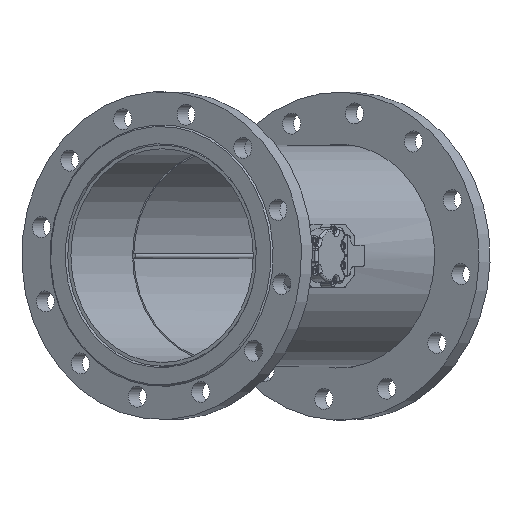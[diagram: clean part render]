
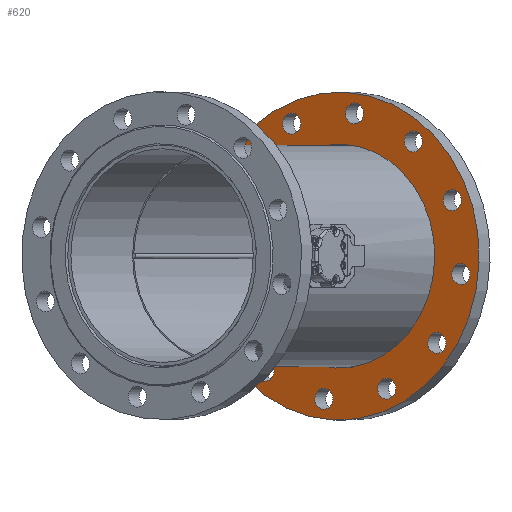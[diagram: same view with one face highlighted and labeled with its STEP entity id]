
A CAD part, top view. The second image highlights one B-rep face of the part: STEP entity #620.
In plain terms, the highlighted planar face has unit normal (-0.522, 0, 0.853) as drawn and (0, 0, -1) by its records, which use the part's own axes.
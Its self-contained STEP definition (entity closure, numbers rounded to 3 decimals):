
#620 = ADVANCED_FACE( '', ( #1344, #1345, #1346, #1347, #1348, #1349, #1350, #1351, #1352, #1353, #1354, #1355, #1356, #1357 ), #1358, .T. );
#1344 = FACE_BOUND( '', #2578, .T. );
#1345 = FACE_BOUND( '', #2579, .T. );
#1346 = FACE_BOUND( '', #2580, .T. );
#1347 = FACE_BOUND( '', #2581, .T. );
#1348 = FACE_BOUND( '', #2582, .T. );
#1349 = FACE_BOUND( '', #2583, .T. );
#1350 = FACE_BOUND( '', #2584, .T. );
#1351 = FACE_BOUND( '', #2585, .T. );
#1352 = FACE_BOUND( '', #2586, .T. );
#1353 = FACE_BOUND( '', #2587, .T. );
#1354 = FACE_BOUND( '', #2588, .T. );
#1355 = FACE_BOUND( '', #2589, .T. );
#1356 = FACE_BOUND( '', #2590, .T. );
#1357 = FACE_OUTER_BOUND( '', #2591, .T. );
#1358 = PLANE( '', #2592 );
#2578 = EDGE_LOOP( '', ( #6591 ) );
#2579 = EDGE_LOOP( '', ( #6592 ) );
#2580 = EDGE_LOOP( '', ( #6593 ) );
#2581 = EDGE_LOOP( '', ( #6594 ) );
#2582 = EDGE_LOOP( '', ( #6595 ) );
#2583 = EDGE_LOOP( '', ( #6596 ) );
#2584 = EDGE_LOOP( '', ( #6597 ) );
#2585 = EDGE_LOOP( '', ( #6598 ) );
#2586 = EDGE_LOOP( '', ( #6599 ) );
#2587 = EDGE_LOOP( '', ( #6600 ) );
#2588 = EDGE_LOOP( '', ( #6601 ) );
#2589 = EDGE_LOOP( '', ( #6602 ) );
#2590 = EDGE_LOOP( '', ( #6603 ) );
#2591 = EDGE_LOOP( '', ( #6604 ) );
#2592 = AXIS2_PLACEMENT_3D( '', #6605, #6606, #6607 );
#6591 = ORIENTED_EDGE( '', *, *, #8416, .F. );
#6592 = ORIENTED_EDGE( '', *, *, #8417, .F. );
#6593 = ORIENTED_EDGE( '', *, *, #8418, .F. );
#6594 = ORIENTED_EDGE( '', *, *, #8391, .F. );
#6595 = ORIENTED_EDGE( '', *, *, #8137, .F. );
#6596 = ORIENTED_EDGE( '', *, *, #8370, .F. );
#6597 = ORIENTED_EDGE( '', *, *, #8419, .F. );
#6598 = ORIENTED_EDGE( '', *, *, #8420, .F. );
#6599 = ORIENTED_EDGE( '', *, *, #8299, .F. );
#6600 = ORIENTED_EDGE( '', *, *, #8421, .F. );
#6601 = ORIENTED_EDGE( '', *, *, #8422, .F. );
#6602 = ORIENTED_EDGE( '', *, *, #8423, .F. );
#6603 = ORIENTED_EDGE( '', *, *, #8424, .T. );
#6604 = ORIENTED_EDGE( '', *, *, #8109, .F. );
#6605 = CARTESIAN_POINT( '', ( 138.25, 0., -8.141 ) );
#6606 = DIRECTION( '', ( 0., 0., -1. ) );
#6607 = DIRECTION( '', ( -1., 0., 0. ) );
#8109 = EDGE_CURVE( '', #8957, #8957, #8958, .T. );
#8137 = EDGE_CURVE( '', #9005, #9005, #9006, .T. );
#8299 = EDGE_CURVE( '', #9274, #9274, #9275, .T. );
#8370 = EDGE_CURVE( '', #9387, #9387, #9388, .T. );
#8391 = EDGE_CURVE( '', #9420, #9420, #9421, .T. );
#8416 = EDGE_CURVE( '', #9460, #9460, #9461, .T. );
#8417 = EDGE_CURVE( '', #9462, #9462, #9463, .T. );
#8418 = EDGE_CURVE( '', #9464, #9464, #9465, .T. );
#8419 = EDGE_CURVE( '', #9466, #9466, #9467, .T. );
#8420 = EDGE_CURVE( '', #9468, #9468, #9469, .T. );
#8421 = EDGE_CURVE( '', #9470, #9470, #9471, .T. );
#8422 = EDGE_CURVE( '', #9472, #9472, #9473, .T. );
#8423 = EDGE_CURVE( '', #9474, #9474, #9475, .T. );
#8424 = EDGE_CURVE( '', #9476, #9476, #9477, .T. );
#8957 = VERTEX_POINT( '', #10211 );
#8958 = CIRCLE( '', #10212, 202.5 );
#9005 = VERTEX_POINT( '', #10341 );
#9006 = CIRCLE( '', #10342, 13. );
#9274 = VERTEX_POINT( '', #10830 );
#9275 = CIRCLE( '', #10831, 13. );
#9387 = VERTEX_POINT( '', #10979 );
#9388 = CIRCLE( '', #10980, 13. );
#9420 = VERTEX_POINT( '', #11029 );
#9421 = CIRCLE( '', #11030, 13. );
#9460 = VERTEX_POINT( '', #11160 );
#9461 = CIRCLE( '', #11161, 13. );
#9462 = VERTEX_POINT( '', #11162 );
#9463 = CIRCLE( '', #11163, 13. );
#9464 = VERTEX_POINT( '', #11164 );
#9465 = CIRCLE( '', #11165, 13. );
#9466 = VERTEX_POINT( '', #11166 );
#9467 = CIRCLE( '', #11167, 13. );
#9468 = VERTEX_POINT( '', #11168 );
#9469 = CIRCLE( '', #11169, 13. );
#9470 = VERTEX_POINT( '', #11170 );
#9471 = CIRCLE( '', #11171, 13. );
#9472 = VERTEX_POINT( '', #11172 );
#9473 = CIRCLE( '', #11173, 13. );
#9474 = VERTEX_POINT( '', #11174 );
#9475 = CIRCLE( '', #11175, 13. );
#9476 = VERTEX_POINT( '', #11176 );
#9477 = CIRCLE( '', #11177, 138.25 );
#10211 = CARTESIAN_POINT( '', ( 202.5, 0., -8.141 ) );
#10212 = AXIS2_PLACEMENT_3D( '', #12851, #12852, #12853 );
#10341 = CARTESIAN_POINT( '', ( 32.94, -171.452, -8.141 ) );
#10342 = AXIS2_PLACEMENT_3D( '', #12891, #12892, #12893 );
#10830 = CARTESIAN_POINT( '', ( 112.511, 125.511, -8.141 ) );
#10831 = AXIS2_PLACEMENT_3D( '', #13135, #13136, #13137 );
#10979 = CARTESIAN_POINT( '', ( 112.511, -125.511, -8.141 ) );
#10980 = AXIS2_PLACEMENT_3D( '', #13236, #13237, #13238 );
#11029 = CARTESIAN_POINT( '', ( -58.94, -171.452, -8.141 ) );
#11030 = AXIS2_PLACEMENT_3D( '', #13271, #13272, #13273 );
#11160 = CARTESIAN_POINT( '', ( -184.452, 45.94, -8.141 ) );
#11161 = AXIS2_PLACEMENT_3D( '', #13307, #13308, #13309 );
#11162 = CARTESIAN_POINT( '', ( -184.452, -45.94, -8.141 ) );
#11163 = AXIS2_PLACEMENT_3D( '', #13310, #13311, #13312 );
#11164 = CARTESIAN_POINT( '', ( -138.511, -125.511, -8.141 ) );
#11165 = AXIS2_PLACEMENT_3D( '', #13313, #13314, #13315 );
#11166 = CARTESIAN_POINT( '', ( 158.452, -45.94, -8.141 ) );
#11167 = AXIS2_PLACEMENT_3D( '', #13316, #13317, #13318 );
#11168 = CARTESIAN_POINT( '', ( 158.452, 45.94, -8.141 ) );
#11169 = AXIS2_PLACEMENT_3D( '', #13319, #13320, #13321 );
#11170 = CARTESIAN_POINT( '', ( 32.94, 171.452, -8.141 ) );
#11171 = AXIS2_PLACEMENT_3D( '', #13322, #13323, #13324 );
#11172 = CARTESIAN_POINT( '', ( -58.94, 171.452, -8.141 ) );
#11173 = AXIS2_PLACEMENT_3D( '', #13325, #13326, #13327 );
#11174 = CARTESIAN_POINT( '', ( -138.511, 125.511, -8.141 ) );
#11175 = AXIS2_PLACEMENT_3D( '', #13328, #13329, #13330 );
#11176 = CARTESIAN_POINT( '', ( 138.25, 0., -8.141 ) );
#11177 = AXIS2_PLACEMENT_3D( '', #13331, #13332, #13333 );
#12851 = CARTESIAN_POINT( '', ( 0., 0., -8.141 ) );
#12852 = DIRECTION( '', ( 0., 0., 1. ) );
#12853 = DIRECTION( '', ( 1., 0., 0. ) );
#12891 = CARTESIAN_POINT( '', ( 45.94, -171.452, -8.141 ) );
#12892 = DIRECTION( '', ( 0., 0., -1. ) );
#12893 = DIRECTION( '', ( -1., 0., 0. ) );
#13135 = CARTESIAN_POINT( '', ( 125.511, 125.511, -8.141 ) );
#13136 = DIRECTION( '', ( 0., 0., -1. ) );
#13137 = DIRECTION( '', ( -1., 0., 0. ) );
#13236 = CARTESIAN_POINT( '', ( 125.511, -125.511, -8.141 ) );
#13237 = DIRECTION( '', ( 0., 0., -1. ) );
#13238 = DIRECTION( '', ( -1., 0., 0. ) );
#13271 = CARTESIAN_POINT( '', ( -45.94, -171.452, -8.141 ) );
#13272 = DIRECTION( '', ( 0., 0., -1. ) );
#13273 = DIRECTION( '', ( -1., 0., 0. ) );
#13307 = CARTESIAN_POINT( '', ( -171.452, 45.94, -8.141 ) );
#13308 = DIRECTION( '', ( 0., 0., -1. ) );
#13309 = DIRECTION( '', ( -1., 0., 0. ) );
#13310 = CARTESIAN_POINT( '', ( -171.452, -45.94, -8.141 ) );
#13311 = DIRECTION( '', ( 0., 0., -1. ) );
#13312 = DIRECTION( '', ( -1., 0., 0. ) );
#13313 = CARTESIAN_POINT( '', ( -125.511, -125.511, -8.141 ) );
#13314 = DIRECTION( '', ( 0., 0., -1. ) );
#13315 = DIRECTION( '', ( -1., 0., 0. ) );
#13316 = CARTESIAN_POINT( '', ( 171.452, -45.94, -8.141 ) );
#13317 = DIRECTION( '', ( 0., 0., -1. ) );
#13318 = DIRECTION( '', ( -1., 0., 0. ) );
#13319 = CARTESIAN_POINT( '', ( 171.452, 45.94, -8.141 ) );
#13320 = DIRECTION( '', ( 0., 0., -1. ) );
#13321 = DIRECTION( '', ( -1., 0., 0. ) );
#13322 = CARTESIAN_POINT( '', ( 45.94, 171.452, -8.141 ) );
#13323 = DIRECTION( '', ( 0., 0., -1. ) );
#13324 = DIRECTION( '', ( -1., 0., 0. ) );
#13325 = CARTESIAN_POINT( '', ( -45.94, 171.452, -8.141 ) );
#13326 = DIRECTION( '', ( 0., 0., -1. ) );
#13327 = DIRECTION( '', ( -1., 0., 0. ) );
#13328 = CARTESIAN_POINT( '', ( -125.511, 125.511, -8.141 ) );
#13329 = DIRECTION( '', ( 0., 0., -1. ) );
#13330 = DIRECTION( '', ( -1., 0., 0. ) );
#13331 = CARTESIAN_POINT( '', ( 0., 0., -8.141 ) );
#13332 = DIRECTION( '', ( 0., 0., 1. ) );
#13333 = DIRECTION( '', ( 1., 0., 0. ) );
